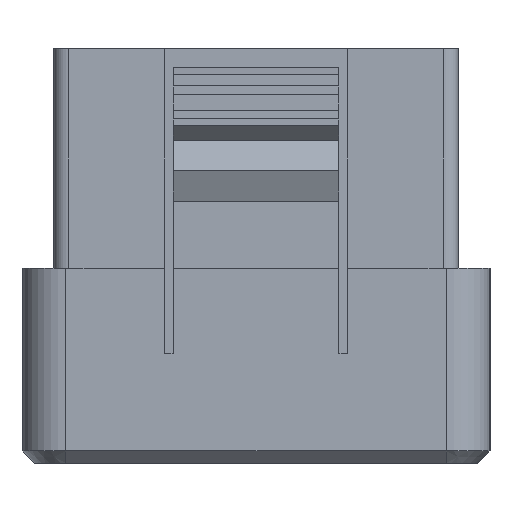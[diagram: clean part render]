
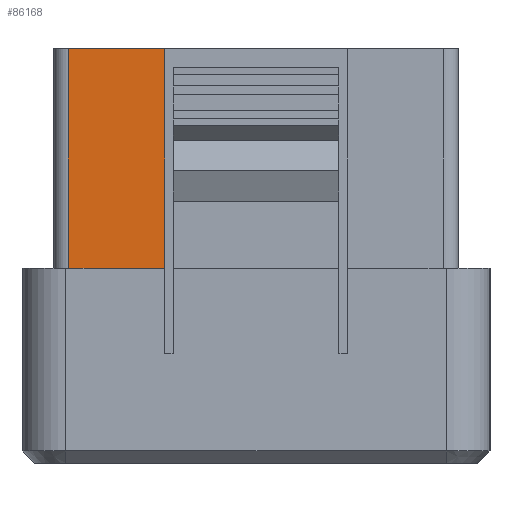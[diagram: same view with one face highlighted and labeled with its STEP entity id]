
A CAD part, left-side view. The second image highlights one B-rep face of the part: STEP entity #86168.
In plain terms, the highlighted planar face has unit normal (-1, 0, 0).
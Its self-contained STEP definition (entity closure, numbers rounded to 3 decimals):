
#285 = PLANE('',#286);
#286 = AXIS2_PLACEMENT_3D('',#287,#288,#289);
#287 = CARTESIAN_POINT('',(-81.,7.5,9.));
#288 = DIRECTION('',(-0.,1.,0.));
#289 = DIRECTION('',(0.,0.,1.));
#313 = PLANE('',#314);
#314 = AXIS2_PLACEMENT_3D('',#315,#316,#317);
#315 = CARTESIAN_POINT('',(0.,0.,16.));
#316 = DIRECTION('',(0.,0.,1.));
#317 = DIRECTION('',(1.,0.,-0.));
#624 = VERTEX_POINT('',#625);
#625 = CARTESIAN_POINT('',(-77.55,7.5,16.));
#645 = EDGE_CURVE('',#624,#646,#648,.T.);
#646 = VERTEX_POINT('',#647);
#647 = CARTESIAN_POINT('',(-77.55,15.4,16.));
#648 = SURFACE_CURVE('',#649,(#653,#660),.PCURVE_S1.);
#649 = LINE('',#650,#651);
#650 = CARTESIAN_POINT('',(-77.55,0.,16.));
#651 = VECTOR('',#652,1.);
#652 = DIRECTION('',(0.,1.,0.));
#653 = PCURVE('',#313,#654);
#654 = DEFINITIONAL_REPRESENTATION('',(#655),#659);
#655 = LINE('',#656,#657);
#656 = CARTESIAN_POINT('',(-77.55,0.));
#657 = VECTOR('',#658,1.);
#658 = DIRECTION('',(0.,1.));
#659 = ( GEOMETRIC_REPRESENTATION_CONTEXT(2) 
PARAMETRIC_REPRESENTATION_CONTEXT() REPRESENTATION_CONTEXT('2D SPACE',''
  ) );
#660 = PCURVE('',#661,#666);
#661 = PLANE('',#662);
#662 = AXIS2_PLACEMENT_3D('',#663,#664,#665);
#663 = CARTESIAN_POINT('',(-77.55,-15.4,16.));
#664 = DIRECTION('',(-1.,0.,0.));
#665 = DIRECTION('',(0.,1.,0.));
#666 = DEFINITIONAL_REPRESENTATION('',(#667),#671);
#667 = LINE('',#668,#669);
#668 = CARTESIAN_POINT('',(15.4,0.));
#669 = VECTOR('',#670,1.);
#670 = DIRECTION('',(1.,0.));
#671 = ( GEOMETRIC_REPRESENTATION_CONTEXT(2) 
PARAMETRIC_REPRESENTATION_CONTEXT() REPRESENTATION_CONTEXT('2D SPACE',''
  ) );
#690 = CYLINDRICAL_SURFACE('',#691,1.2);
#691 = AXIS2_PLACEMENT_3D('',#692,#693,#694);
#692 = CARTESIAN_POINT('',(-76.35,15.4,16.));
#693 = DIRECTION('',(-0.,-0.,-1.));
#694 = DIRECTION('',(1.,0.,0.));
#791 = VERTEX_POINT('',#792);
#792 = CARTESIAN_POINT('',(-77.55,7.5,34.));
#806 = PLANE('',#807);
#807 = AXIS2_PLACEMENT_3D('',#808,#809,#810);
#808 = CARTESIAN_POINT('',(0.,0.,34.)
  );
#809 = DIRECTION('',(0.,0.,1.));
#810 = DIRECTION('',(1.,0.,-0.));
#869 = EDGE_CURVE('',#791,#624,#870,.T.);
#870 = SURFACE_CURVE('',#871,(#875,#882),.PCURVE_S1.);
#871 = LINE('',#872,#873);
#872 = CARTESIAN_POINT('',(-77.55,7.5,34.));
#873 = VECTOR('',#874,1.);
#874 = DIRECTION('',(0.,0.,-1.));
#875 = PCURVE('',#285,#876);
#876 = DEFINITIONAL_REPRESENTATION('',(#877),#881);
#877 = LINE('',#878,#879);
#878 = CARTESIAN_POINT('',(25.,3.45));
#879 = VECTOR('',#880,1.);
#880 = DIRECTION('',(-1.,0.));
#881 = ( GEOMETRIC_REPRESENTATION_CONTEXT(2) 
PARAMETRIC_REPRESENTATION_CONTEXT() REPRESENTATION_CONTEXT('2D SPACE',''
  ) );
#882 = PCURVE('',#661,#883);
#883 = DEFINITIONAL_REPRESENTATION('',(#884),#888);
#884 = LINE('',#885,#886);
#885 = CARTESIAN_POINT('',(22.9,-18.));
#886 = VECTOR('',#887,1.);
#887 = DIRECTION('',(0.,1.));
#888 = ( GEOMETRIC_REPRESENTATION_CONTEXT(2) 
PARAMETRIC_REPRESENTATION_CONTEXT() REPRESENTATION_CONTEXT('2D SPACE',''
  ) );
#86124 = VERTEX_POINT('',#86125);
#86125 = CARTESIAN_POINT('',(-77.55,15.4,34.));
#86147 = EDGE_CURVE('',#646,#86124,#86148,.T.);
#86148 = SURFACE_CURVE('',#86149,(#86153,#86160),.PCURVE_S1.);
#86149 = LINE('',#86150,#86151);
#86150 = CARTESIAN_POINT('',(-77.55,15.4,16.));
#86151 = VECTOR('',#86152,1.);
#86152 = DIRECTION('',(0.,0.,1.));
#86153 = PCURVE('',#690,#86154);
#86154 = DEFINITIONAL_REPRESENTATION('',(#86155),#86159);
#86155 = LINE('',#86156,#86157);
#86156 = CARTESIAN_POINT('',(-3.142,0.));
#86157 = VECTOR('',#86158,1.);
#86158 = DIRECTION('',(-0.,-1.));
#86159 = ( GEOMETRIC_REPRESENTATION_CONTEXT(2) 
PARAMETRIC_REPRESENTATION_CONTEXT() REPRESENTATION_CONTEXT('2D SPACE',''
  ) );
#86160 = PCURVE('',#661,#86161);
#86161 = DEFINITIONAL_REPRESENTATION('',(#86162),#86166);
#86162 = LINE('',#86163,#86164);
#86163 = CARTESIAN_POINT('',(30.8,0.));
#86164 = VECTOR('',#86165,1.);
#86165 = DIRECTION('',(0.,-1.));
#86166 = ( GEOMETRIC_REPRESENTATION_CONTEXT(2) 
PARAMETRIC_REPRESENTATION_CONTEXT() REPRESENTATION_CONTEXT('2D SPACE',''
  ) );
#86168 = ADVANCED_FACE('',(#86169),#661,.T.);
#86169 = FACE_BOUND('',#86170,.T.);
#86170 = EDGE_LOOP('',(#86171,#86172,#86173,#86194));
#86171 = ORIENTED_EDGE('',*,*,#645,.F.);
#86172 = ORIENTED_EDGE('',*,*,#869,.F.);
#86173 = ORIENTED_EDGE('',*,*,#86174,.T.);
#86174 = EDGE_CURVE('',#791,#86124,#86175,.T.);
#86175 = SURFACE_CURVE('',#86176,(#86180,#86187),.PCURVE_S1.);
#86176 = LINE('',#86177,#86178);
#86177 = CARTESIAN_POINT('',(-77.55,0.,34.));
#86178 = VECTOR('',#86179,1.);
#86179 = DIRECTION('',(0.,1.,0.));
#86180 = PCURVE('',#661,#86181);
#86181 = DEFINITIONAL_REPRESENTATION('',(#86182),#86186);
#86182 = LINE('',#86183,#86184);
#86183 = CARTESIAN_POINT('',(15.4,-18.));
#86184 = VECTOR('',#86185,1.);
#86185 = DIRECTION('',(1.,0.));
#86186 = ( GEOMETRIC_REPRESENTATION_CONTEXT(2) 
PARAMETRIC_REPRESENTATION_CONTEXT() REPRESENTATION_CONTEXT('2D SPACE',''
  ) );
#86187 = PCURVE('',#806,#86188);
#86188 = DEFINITIONAL_REPRESENTATION('',(#86189),#86193);
#86189 = LINE('',#86190,#86191);
#86190 = CARTESIAN_POINT('',(-77.55,0.));
#86191 = VECTOR('',#86192,1.);
#86192 = DIRECTION('',(0.,1.));
#86193 = ( GEOMETRIC_REPRESENTATION_CONTEXT(2) 
PARAMETRIC_REPRESENTATION_CONTEXT() REPRESENTATION_CONTEXT('2D SPACE',''
  ) );
#86194 = ORIENTED_EDGE('',*,*,#86147,.F.);
